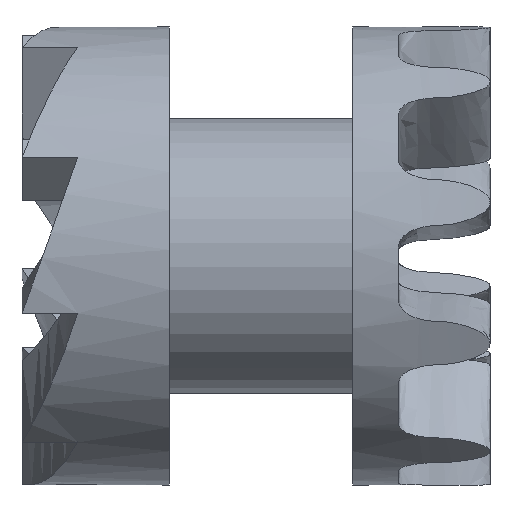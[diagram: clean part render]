
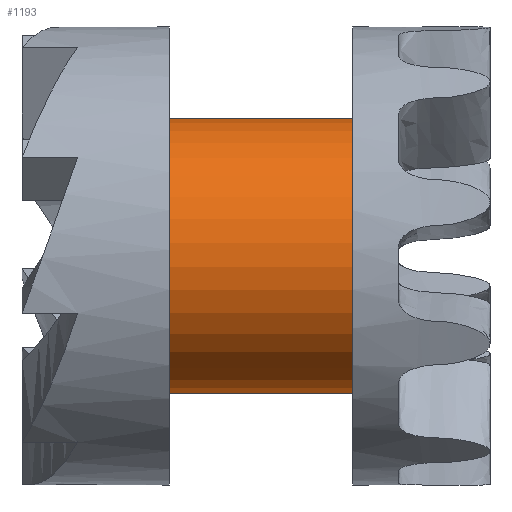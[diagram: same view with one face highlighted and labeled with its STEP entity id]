
A CAD part, left-side view. The second image highlights one B-rep face of the part: STEP entity #1193.
In plain terms, the highlighted cylindrical face has radius 2.625 mm (diameter 5.25 mm), a full revolution.
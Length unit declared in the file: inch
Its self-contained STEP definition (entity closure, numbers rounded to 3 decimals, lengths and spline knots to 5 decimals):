
#132=FACE_OUTER_BOUND('',#200,.T.);
#200=EDGE_LOOP('',(#746,#747,#748,#749,#750,#751));
#272=LINE('',#1598,#344);
#344=VECTOR('',#1366,0.10335);
#416=CIRCLE('',#1282,0.10335);
#417=CIRCLE('',#1283,0.10335);
#418=CIRCLE('',#1284,0.10335);
#419=CIRCLE('',#1285,0.10335);
#454=VERTEX_POINT('',#1594);
#455=VERTEX_POINT('',#1595);
#456=VERTEX_POINT('',#1597);
#457=VERTEX_POINT('',#1599);
#568=EDGE_CURVE('',#454,#455,#416,.T.);
#569=EDGE_CURVE('',#455,#456,#272,.T.);
#570=EDGE_CURVE('',#457,#456,#417,.T.);
#571=EDGE_CURVE('',#456,#457,#418,.T.);
#572=EDGE_CURVE('',#455,#454,#419,.T.);
#746=ORIENTED_EDGE('',*,*,#568,.T.);
#747=ORIENTED_EDGE('',*,*,#569,.T.);
#748=ORIENTED_EDGE('',*,*,#570,.F.);
#749=ORIENTED_EDGE('',*,*,#571,.F.);
#750=ORIENTED_EDGE('',*,*,#569,.F.);
#751=ORIENTED_EDGE('',*,*,#572,.T.);
#1102=CYLINDRICAL_SURFACE('',#1281,0.10335);
#1193=ADVANCED_FACE('',(#132),#1102,.T.);
#1281=AXIS2_PLACEMENT_3D('',#1593,#1362,#1363);
#1282=AXIS2_PLACEMENT_3D('',#1596,#1364,#1365);
#1283=AXIS2_PLACEMENT_3D('',#1600,#1367,#1368);
#1284=AXIS2_PLACEMENT_3D('',#1601,#1369,#1370);
#1285=AXIS2_PLACEMENT_3D('',#1602,#1371,#1372);
#1362=DIRECTION('center_axis',(0.,1.,0.));
#1363=DIRECTION('ref_axis',(0.997,0.,0.078));
#1364=DIRECTION('center_axis',(0.,-1.,0.));
#1365=DIRECTION('ref_axis',(-0.997,0.,-0.078));
#1366=DIRECTION('',(0.,-1.,0.));
#1367=DIRECTION('center_axis',(0.,-1.,0.));
#1368=DIRECTION('ref_axis',(-0.997,0.,-0.078));
#1369=DIRECTION('center_axis',(0.,-1.,0.));
#1370=DIRECTION('ref_axis',(-0.997,0.,-0.078));
#1371=DIRECTION('center_axis',(0.,-1.,0.));
#1372=DIRECTION('ref_axis',(-0.997,0.,-0.078));
#1593=CARTESIAN_POINT('Origin',(0.,1.80139,-0.05512));
#1594=CARTESIAN_POINT('',(0.10303,1.93918,-0.04705));
#1595=CARTESIAN_POINT('',(-0.10303,1.93918,-0.06319));
#1596=CARTESIAN_POINT('Origin',(0.,1.93918,-0.05512));
#1597=CARTESIAN_POINT('',(-0.10303,1.80139,-0.06319));
#1598=CARTESIAN_POINT('',(-0.10303,1.80139,-0.06319));
#1599=CARTESIAN_POINT('',(0.10303,1.80139,-0.04705));
#1600=CARTESIAN_POINT('Origin',(0.,1.80139,-0.05512));
#1601=CARTESIAN_POINT('Origin',(0.,1.80139,-0.05512));
#1602=CARTESIAN_POINT('Origin',(0.,1.93918,-0.05512));
